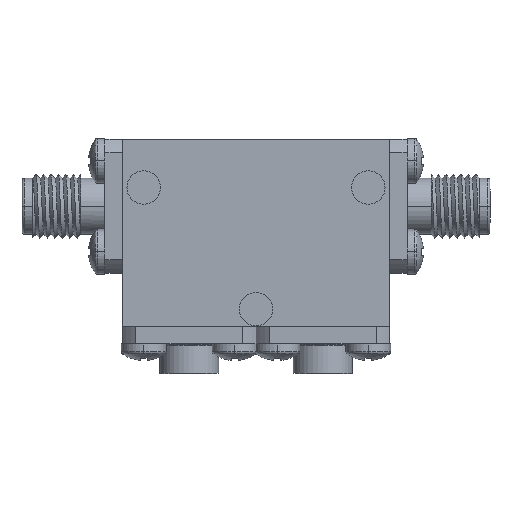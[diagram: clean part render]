
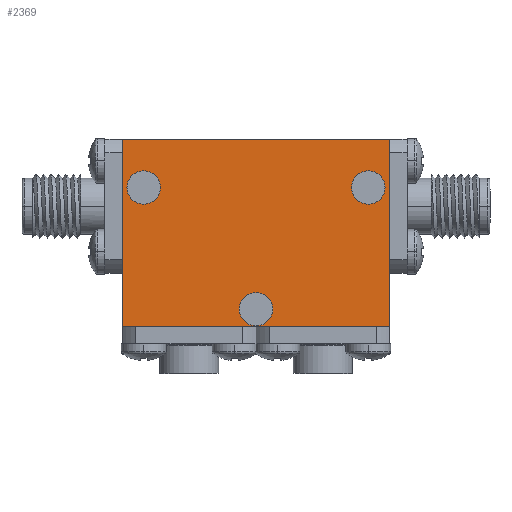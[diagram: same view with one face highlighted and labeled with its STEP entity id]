
A CAD part, top view. The second image highlights one B-rep face of the part: STEP entity #2369.
In plain terms, the highlighted planar face has unit normal (0, 0, 1).
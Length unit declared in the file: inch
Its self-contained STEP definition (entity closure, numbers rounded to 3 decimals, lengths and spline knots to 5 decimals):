
#32 = CARTESIAN_POINT ( 'NONE',  ( 0.5, 0.35, 0.25 ) ) ;
#70 = CARTESIAN_POINT ( 'NONE',  ( 0.42, 0.17, 0.25 ) ) ;
#89 = FACE_BOUND ( 'NONE', #2068, .T. ) ;
#161 = EDGE_CURVE ( 'NONE', #2362, #2717, #891, .T. ) ;
#192 = DIRECTION ( 'NONE',  ( 0., 0., 1. ) ) ;
#219 = EDGE_CURVE ( 'NONE', #2046, #1675, #2767, .T. ) ;
#239 = VERTEX_POINT ( 'NONE', #3021 ) ;
#345 = DIRECTION ( 'NONE',  ( 0., 0., 1. ) ) ;
#473 = LINE ( 'NONE', #4432, #3590 ) ;
#526 = CARTESIAN_POINT ( 'NONE',  ( 0.5, 0.35, 0.25 ) ) ;
#652 = EDGE_CURVE ( 'NONE', #239, #2362, #1795, .T. ) ;
#718 = CARTESIAN_POINT ( 'NONE',  ( 0., -0.285, 0.25 ) ) ;
#733 = ORIENTED_EDGE ( 'NONE', *, *, #918, .F. ) ;
#856 = CIRCLE ( 'NONE', #1383, 0.0625 ) ;
#891 = LINE ( 'NONE', #1184, #4158 ) ;
#903 = DIRECTION ( 'NONE',  ( 1., 0., 0. ) ) ;
#918 = EDGE_CURVE ( 'NONE', #3270, #4035, #1797, .T. ) ;
#924 = CARTESIAN_POINT ( 'NONE',  ( -0.42, 0.17, 0.25 ) ) ;
#935 = CARTESIAN_POINT ( 'NONE',  ( 0., 0., 0.25 ) ) ;
#1024 = FACE_BOUND ( 'NONE', #3744, .T. ) ;
#1061 = DIRECTION ( 'NONE',  ( 1., 0., 0. ) ) ;
#1126 = DIRECTION ( 'NONE',  ( 1., 0., 0. ) ) ;
#1184 = CARTESIAN_POINT ( 'NONE',  ( -0.5, 0.35, 0.25 ) ) ;
#1209 = DIRECTION ( 'NONE',  ( 1., 0., 0. ) ) ;
#1211 = FACE_OUTER_BOUND ( 'NONE', #2191, .T. ) ;
#1317 = VERTEX_POINT ( 'NONE', #1603 ) ;
#1356 = CIRCLE ( 'NONE', #2759, 0.0625 ) ;
#1383 = AXIS2_PLACEMENT_3D ( 'NONE', #924, #3161, #3583 ) ;
#1443 = VERTEX_POINT ( 'NONE', #4571 ) ;
#1535 = CARTESIAN_POINT ( 'NONE',  ( 0.4825, 0.17, 0.25 ) ) ;
#1603 = CARTESIAN_POINT ( 'NONE',  ( -0.4825, 0.17, 0.25 ) ) ;
#1633 = AXIS2_PLACEMENT_3D ( 'NONE', #4885, #2583, #1061 ) ;
#1675 = VERTEX_POINT ( 'NONE', #1970 ) ;
#1707 = ORIENTED_EDGE ( 'NONE', *, *, #652, .T. ) ;
#1754 = AXIS2_PLACEMENT_3D ( 'NONE', #718, #3364, #1126 ) ;
#1795 = LINE ( 'NONE', #32, #4488 ) ;
#1796 = DIRECTION ( 'NONE',  ( 1., 0., 0. ) ) ;
#1797 = CIRCLE ( 'NONE', #2990, 0.0625 ) ;
#1803 = CARTESIAN_POINT ( 'NONE',  ( 0.0625, -0.285, 0.25 ) ) ;
#1967 = EDGE_CURVE ( 'NONE', #1675, #2046, #4652, .T. ) ;
#1970 = CARTESIAN_POINT ( 'NONE',  ( -0.0625, -0.285, 0.25 ) ) ;
#2021 = ORIENTED_EDGE ( 'NONE', *, *, #4509, .T. ) ;
#2046 = VERTEX_POINT ( 'NONE', #1803 ) ;
#2068 = EDGE_LOOP ( 'NONE', ( #3629, #3137 ) ) ;
#2128 = EDGE_CURVE ( 'NONE', #4035, #3270, #3519, .T. ) ;
#2191 = EDGE_LOOP ( 'NONE', ( #1707, #3466, #3619, #2021 ) ) ;
#2362 = VERTEX_POINT ( 'NONE', #526 ) ;
#2369 = ADVANCED_FACE ( 'NONE', ( #1024, #3754, #89, #1211 ), #2788, .T. ) ;
#2467 = EDGE_CURVE ( 'NONE', #3081, #1317, #856, .T. ) ;
#2514 = CARTESIAN_POINT ( 'NONE',  ( -0.5, 0.35, 0.25 ) ) ;
#2583 = DIRECTION ( 'NONE',  ( 0., 0., 1. ) ) ;
#2667 = AXIS2_PLACEMENT_3D ( 'NONE', #935, #192, #903 ) ;
#2692 = DIRECTION ( 'NONE',  ( 0., 0., 1. ) ) ;
#2717 = VERTEX_POINT ( 'NONE', #2514 ) ;
#2756 = AXIS2_PLACEMENT_3D ( 'NONE', #3216, #4779, #2867 ) ;
#2759 = AXIS2_PLACEMENT_3D ( 'NONE', #4000, #345, #4087 ) ;
#2767 = CIRCLE ( 'NONE', #1754, 0.0625 ) ;
#2788 = PLANE ( 'NONE',  #2667 ) ;
#2867 = DIRECTION ( 'NONE',  ( 1., 0., 0. ) ) ;
#2990 = AXIS2_PLACEMENT_3D ( 'NONE', #70, #2692, #1209 ) ;
#3021 = CARTESIAN_POINT ( 'NONE',  ( 0.5, -0.35, 0.25 ) ) ;
#3041 = DIRECTION ( 'NONE',  ( 0., 1., 0. ) ) ;
#3074 = DIRECTION ( 'NONE',  ( -1., 0., 0. ) ) ;
#3081 = VERTEX_POINT ( 'NONE', #3589 ) ;
#3137 = ORIENTED_EDGE ( 'NONE', *, *, #3908, .F. ) ;
#3161 = DIRECTION ( 'NONE',  ( 0., 0., 1. ) ) ;
#3216 = CARTESIAN_POINT ( 'NONE',  ( 0., -0.285, 0.25 ) ) ;
#3270 = VERTEX_POINT ( 'NONE', #3286 ) ;
#3286 = CARTESIAN_POINT ( 'NONE',  ( 0.3575, 0.17, 0.25 ) ) ;
#3364 = DIRECTION ( 'NONE',  ( 0., 0., 1. ) ) ;
#3378 = VECTOR ( 'NONE', #4214, 39.37008 ) ;
#3466 = ORIENTED_EDGE ( 'NONE', *, *, #161, .T. ) ;
#3519 = CIRCLE ( 'NONE', #1633, 0.0625 ) ;
#3583 = DIRECTION ( 'NONE',  ( 1., 0., 0. ) ) ;
#3589 = CARTESIAN_POINT ( 'NONE',  ( -0.3575, 0.17, 0.25 ) ) ;
#3590 = VECTOR ( 'NONE', #1796, 39.37008 ) ;
#3619 = ORIENTED_EDGE ( 'NONE', *, *, #3796, .T. ) ;
#3629 = ORIENTED_EDGE ( 'NONE', *, *, #2467, .F. ) ;
#3744 = EDGE_LOOP ( 'NONE', ( #4231, #733 ) ) ;
#3754 = FACE_BOUND ( 'NONE', #3929, .T. ) ;
#3796 = EDGE_CURVE ( 'NONE', #2717, #1443, #4631, .T. ) ;
#3810 = ORIENTED_EDGE ( 'NONE', *, *, #219, .F. ) ;
#3838 = CARTESIAN_POINT ( 'NONE',  ( -0.5, 0.35, 0.25 ) ) ;
#3908 = EDGE_CURVE ( 'NONE', #1317, #3081, #1356, .T. ) ;
#3929 = EDGE_LOOP ( 'NONE', ( #3810, #4464 ) ) ;
#4000 = CARTESIAN_POINT ( 'NONE',  ( -0.42, 0.17, 0.25 ) ) ;
#4035 = VERTEX_POINT ( 'NONE', #1535 ) ;
#4087 = DIRECTION ( 'NONE',  ( 1., 0., 0. ) ) ;
#4158 = VECTOR ( 'NONE', #3074, 39.37008 ) ;
#4214 = DIRECTION ( 'NONE',  ( 0., -1., 0. ) ) ;
#4231 = ORIENTED_EDGE ( 'NONE', *, *, #2128, .F. ) ;
#4432 = CARTESIAN_POINT ( 'NONE',  ( -0.5, -0.35, 0.25 ) ) ;
#4464 = ORIENTED_EDGE ( 'NONE', *, *, #1967, .F. ) ;
#4488 = VECTOR ( 'NONE', #3041, 39.37008 ) ;
#4509 = EDGE_CURVE ( 'NONE', #1443, #239, #473, .T. ) ;
#4571 = CARTESIAN_POINT ( 'NONE',  ( -0.5, -0.35, 0.25 ) ) ;
#4631 = LINE ( 'NONE', #3838, #3378 ) ;
#4652 = CIRCLE ( 'NONE', #2756, 0.0625 ) ;
#4779 = DIRECTION ( 'NONE',  ( 0., 0., 1. ) ) ;
#4885 = CARTESIAN_POINT ( 'NONE',  ( 0.42, 0.17, 0.25 ) ) ;
